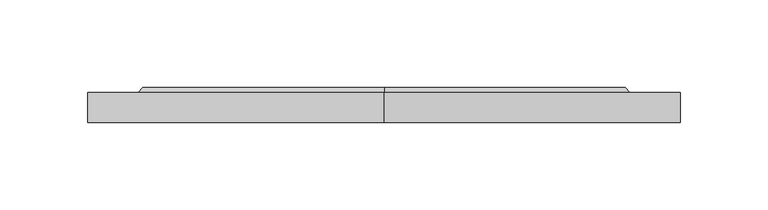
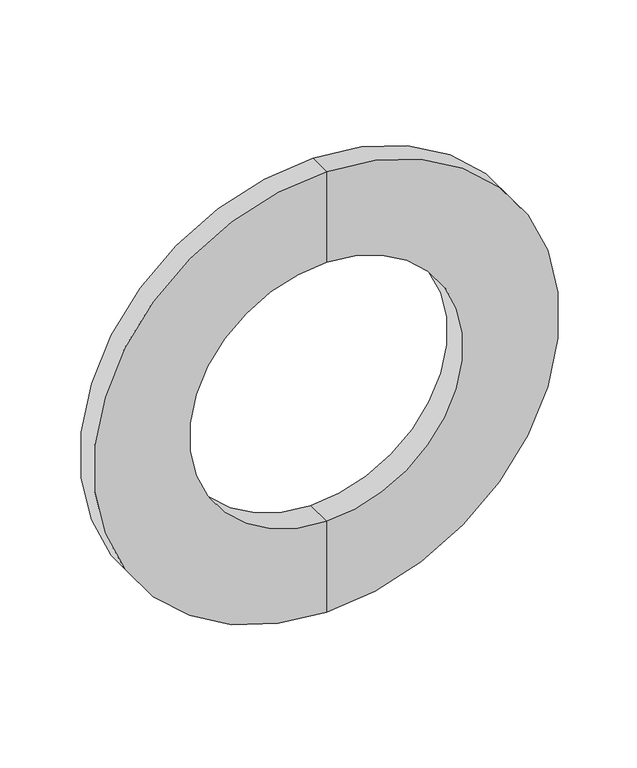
"""IFC4 building model written with IfcOpenShell, lengths in millimetres: pipe fitting geometry, Фланец : Фланец."""

import ifcopenshell
import ifcopenshell.guid

model = None  # the IFC model being written
_history = None  # IfcOwnerHistory: only IFC2X3 demands one
_inside = {}  # id of a spatial element -> (the spatial element, [elements in it])
_under = {}  # id of a project, library or spatial element -> (it, [spatial elements below it])
_declared = {}  # id of a project -> (the project, [libraries it declares])
_typed = {}  # id of a type object -> (the type object, [elements of that type])
_made_of = {}  # id of a material, layer set ... -> (it, [elements and type objects made of it])


def new_model(schema):
    """Start an empty IFC model of exactly this schema.

    Asked for "IFC4X3", IfcOpenShell would pick the latest addendum, in which some entities
    have other attributes; the version numbers below select the first issue.
    IFC2X3 requires an IfcOwnerHistory on every rooted entity: one is made here for all.
    """
    global model, _history
    if schema == "IFC4X3":
        model = ifcopenshell.file(schema_version=(4, 3, 0, 0))
    else:
        model = ifcopenshell.file(schema=schema)
    _inside.clear()
    _under.clear()
    _declared.clear()
    _typed.clear()
    _made_of.clear()
    _history = None
    if model.schema == "IFC2X3":
        org = make("IfcOrganization", Name="unknown")
        user = make(
            "IfcPersonAndOrganization",
            ThePerson=make("IfcPerson", FamilyName="unknown"),
            TheOrganization=org,
        )
        app = make(
            "IfcApplication",
            ApplicationDeveloper=org,
            Version="unknown",
            ApplicationFullName="unknown",
            ApplicationIdentifier="unknown",
        )
        _history = make(
            "IfcOwnerHistory",
            OwningUser=user,
            OwningApplication=app,
            ChangeAction="ADDED",
            CreationDate=0,
        )
    return model


def make(cls, **values):
    """One entity of the class cls with the attributes given. An attribute that is None is left unset."""
    return model.create_entity(
        cls, **{name: value for name, value in values.items() if value is not None}
    )


def rooted(cls, **values):
    """An entity with a GlobalId (a new one), such as an element, a storey or a relation."""
    return make(cls, GlobalId=ifcopenshell.guid.new(), OwnerHistory=_history, **values)


def si_unit(unit_type, name, prefix=None):
    """IfcSIUnit, for example si_unit("LENGTHUNIT", "METRE", prefix="MILLI")."""
    return make("IfcSIUnit", UnitType=unit_type, Prefix=prefix, Name=name)


def assignment(units):
    """IfcUnitAssignment: the units of a project."""
    return None if units is None else make("IfcUnitAssignment", Units=units)


def point(xyz):
    """IfcCartesianPoint."""
    return None if xyz is None else make("IfcCartesianPoint", Coordinates=xyz)


def direction(xyz):
    """IfcDirection."""
    return None if xyz is None else make("IfcDirection", DirectionRatios=xyz)


def frame(location, z_axis=None, x_axis=None):
    """IfcAxis2Placement3D, a coordinate frame: its origin and axes. An axis left out is left unset."""
    return make(
        "IfcAxis2Placement3D",
        Location=point(location),
        Axis=direction(z_axis),
        RefDirection=direction(x_axis),
    )


def origin():
    """The frame at (0, 0, 0) with its axes left unset."""
    return frame((0.0, 0.0, 0.0))


def place(relative_to, where):
    """IfcLocalPlacement: puts the frame where relative to a parent placement (None: the world)."""
    return make(
        "IfcLocalPlacement", PlacementRelTo=relative_to, RelativePlacement=where
    )


def context(
    kind, dimensions, precision=None, world=None, true_north=None, identifier=None
):
    """IfcGeometricRepresentationContext, for example the 3D "Model" context."""
    return make(
        "IfcGeometricRepresentationContext",
        ContextIdentifier=identifier,
        ContextType=kind,
        CoordinateSpaceDimension=dimensions,
        Precision=precision,
        WorldCoordinateSystem=world,
        TrueNorth=true_north,
    )


def project(units=None, contexts=None):
    """IfcProject with its units and contexts."""
    return rooted(
        "IfcProject",
        Name="project",
        RepresentationContexts=contexts,
        UnitsInContext=assignment(units),
    )


def spatial(cls, under=None, at=None, **own):
    """A site, building, storey or space (cls), placed at a placement, below another one or the project."""
    s = rooted(cls, ObjectPlacement=at, **own)
    if under is not None:
        _under.setdefault(under.id(), (under, []))[1].append(s)
    return s


def polyline(points):
    """IfcPolyline through the points."""
    return make("IfcPolyline", Points=[point(p) for p in points])


def circle_curve(where, radius):
    """IfcCircle in the frame where."""
    return make("IfcCircle", Position=where, Radius=radius)


def shape(context_of_items, identifier, shape_type, items):
    """IfcShapeRepresentation: the items that make up one representation, for example the "Body"."""
    return make(
        "IfcShapeRepresentation",
        ContextOfItems=context_of_items,
        RepresentationIdentifier=identifier,
        RepresentationType=shape_type,
        Items=items,
    )


def source(mapping_origin, context_of_items, identifier, shape_type, items):
    """IfcRepresentationMap: a shape defined once, which mapped items show again and again."""
    return make(
        "IfcRepresentationMap",
        MappingOrigin=mapping_origin,
        MappedRepresentation=shape(context_of_items, identifier, shape_type, items),
    )


def transform(
    local_origin,
    x_axis=None,
    y_axis=None,
    z_axis=None,
    scale=None,
    scale2=None,
    scale3=None,
    uniform=True,
):
    """IfcCartesianTransformationOperator3D, or its non-uniform kind. x_axis, y_axis, z_axis: its Axis1, 2, 3."""
    if uniform:
        return make(
            "IfcCartesianTransformationOperator3D",
            Axis1=direction(x_axis),
            Axis2=direction(y_axis),
            LocalOrigin=point(local_origin),
            Scale=scale,
            Axis3=direction(z_axis),
        )
    return make(
        "IfcCartesianTransformationOperator3DnonUniform",
        Axis1=direction(x_axis),
        Axis2=direction(y_axis),
        LocalOrigin=point(local_origin),
        Scale=scale,
        Axis3=direction(z_axis),
        Scale2=scale2,
        Scale3=scale3,
    )


def mapped(mapping_source, mapping_target):
    """IfcMappedItem: shows the shape of a source again, moved by a transform."""
    return make(
        "IfcMappedItem", MappingSource=mapping_source, MappingTarget=mapping_target
    )


def made_of(thing, what):
    """Note that an element or type object is made of a material, layer set ...; save() writes the relation."""
    if what is not None:
        _made_of.setdefault(what.id(), (what, []))[1].append(thing)
    return thing


def element(
    cls,
    number,
    at=None,
    inside=None,
    cuts=None,
    type_object=None,
    material=None,
    context=None,
    identifier="Body",
    shape_type=None,
    held_by="IfcProductDefinitionShape",
    body=None,
    shapes=None,
    **own,
):
    """One element of the class cls, such as IfcWall. Its Tag is "e" and its number.

    at: its placement. inside: the storey or other place that contains it. cuts: it is an
    opening in that element (IfcRelVoidsElement). A single representation is given by context,
    identifier, shape_type and body (its items); several are given by shapes. held_by: the class
    of the entity that holds the representations. save() writes the other relations.
    """
    e = rooted(cls, Tag="e%d" % number, ObjectPlacement=at, **own)
    if body is not None:
        shapes = [shape(context, identifier, shape_type, body)]
    if shapes is not None:
        e.Representation = make(held_by, Representations=shapes)
    if inside is not None:
        _inside.setdefault(inside.id(), (inside, []))[1].append(e)
    if cuts is not None:
        rooted(
            "IfcRelVoidsElement", RelatingBuildingElement=cuts, RelatedOpeningElement=e
        )
    if type_object is not None:
        _typed.setdefault(type_object.id(), (type_object, []))[1].append(e)
    return made_of(e, material)


def aggregate(whole, parts):
    """IfcRelAggregates: a whole, such as a stair, and the parts it consists of."""
    return rooted("IfcRelAggregates", RelatingObject=whole, RelatedObjects=parts)


def save(model, path):
    """Write the relations noted so far, then the file.

    IfcRelAggregates (storeys below a building ...), IfcRelContainedInSpatialStructure (elements
    in a storey), IfcRelDefinesByType, IfcRelAssociatesMaterial and IfcRelDeclares: one each for
    every whole, place, type object, material and project.
    """
    for whole, parts in _under.values():
        aggregate(whole, parts)
    for where, things in _inside.values():
        rooted(
            "IfcRelContainedInSpatialStructure",
            RelatedElements=things,
            RelatingStructure=where,
        )
    for kind, things in _typed.values():
        rooted("IfcRelDefinesByType", RelatedObjects=things, RelatingType=kind)
    for what, things in _made_of.values():
        rooted("IfcRelAssociatesMaterial", RelatedObjects=things, RelatingMaterial=what)
    for by, libraries in _declared.values():
        rooted("IfcRelDeclares", RelatingContext=by, RelatedDefinitions=libraries)
    model.write(path)


def plane_surface(at):
    """IfcPlane: the flat surface through the origin of the frame at, square to its z axis."""
    return make("IfcPlane", Position=at)


def cylinder_surface(at, radius):
    """IfcCylindricalSurface: all points at the distance radius from the z axis of the frame at."""
    return make("IfcCylindricalSurface", Position=at, Radius=radius)


def revolved_surface(curve, axis_point, axis_direction):
    """IfcSurfaceOfRevolution: the curve turned about the line through axis_point along axis_direction."""
    return make(
        "IfcSurfaceOfRevolution",
        SweptCurve=make("IfcArbitraryOpenProfileDef", ProfileType="CURVE", Curve=curve),
        AxisPosition=make("IfcAxis1Placement", Location=point(axis_point), Axis=direction(axis_direction)),
    )


def advanced_brep(points, edges, surfaces, faces):
    """IfcAdvancedBrep: a solid bounded by faces that lie on surfaces and meet in shared edges.

    An edge is (start, end): straight between two places in points (the first is 0);
    or (start, end, curve); or (start, end, curve, False) where it runs against its curve.
    A face is (place in surfaces, loops), or (place, loops, False) where it looks against
    its surface's normal. A loop lists edges by number (the first is 1), with a minus sign
    where the edge is run from its end to its start. The first loop is the outer one.
    """
    corners = [point(p) for p in points]
    vertices = [make("IfcVertexPoint", VertexGeometry=c) for c in corners]
    made = []
    for start, end, *more in edges:
        made.append(
            make(
                "IfcEdgeCurve",
                EdgeStart=vertices[start],
                EdgeEnd=vertices[end],
                EdgeGeometry=more[0] if more else make("IfcPolyline", Points=[corners[start], corners[end]]),
                SameSense=more[1] if len(more) > 1 else True,
            )
        )
    hull = []
    for where, loops, *sense in faces:
        bounds = []
        for j, loop in enumerate(loops):
            ring = [make("IfcOrientedEdge", EdgeElement=made[abs(k) - 1], Orientation=k > 0) for k in loop]
            bounds.append(
                make(
                    "IfcFaceOuterBound" if j == 0 else "IfcFaceBound",
                    Bound=make("IfcEdgeLoop", EdgeList=ring),
                    Orientation=True,
                )
            )
        hull.append(make("IfcAdvancedFace", Bounds=bounds, FaceSurface=surfaces[where], SameSense=sense[0] if sense else True))
    return make("IfcAdvancedBrep", Outer=make("IfcClosedShell", CfsFaces=hull))


def pipe_fitting_479de25e(model_context):
    return source(origin(), model_context, "Body", "AdvancedBrep", [
        advanced_brep(
        [(0.0, 0.0, -170.0), (0.0, 0.0, 170.0), (0.0, 17.0, 170.0), (0.0, 17.0, -170.0), (0.0, 0.0, -100.0), (0.0, 0.0, 100.0), (0.0, 20.0, -100.0), (0.0, 20.0, 100.0), (0.0, 20.0, -138.5), (0.0, 20.0, 138.5), (0.0, 17.0, -141.0), (0.0, 17.0, 141.0)],
        [
            (0, 1, circle_curve(frame((0.0, 0.0, 0.0), z_axis=(0.0, 1.0, 0.0), x_axis=(0.0, 0.0, 1.0)), 170.0)),
            (1, 2),
            (2, 3, circle_curve(frame((0.0, 17.0, 0.0), z_axis=(0.0, -1.0, 0.0), x_axis=(0.0, 0.0, 1.0)), 170.0)),
            (3, 0),
            (1, 0, circle_curve(frame((0.0, 0.0, 0.0), z_axis=(0.0, 1.0, 0.0), x_axis=(0.0, 0.0, 1.0)), 170.0)),
            (3, 2, circle_curve(frame((0.0, 17.0, 0.0), z_axis=(0.0, -1.0, 0.0), x_axis=(0.0, 0.0, 1.0)), 170.0)),
            (4, 5, circle_curve(frame((0.0, 0.0, 0.0), z_axis=(0.0, 1.0, 0.0), x_axis=(0.0, 0.0, 1.0)), 100.0)),
            (5, 1),
            (0, 4),
            (5, 4, circle_curve(frame((0.0, 0.0, 0.0), z_axis=(0.0, 1.0, 0.0), x_axis=(0.0, 0.0, 1.0)), 100.0)),
            (6, 7, circle_curve(frame((0.0, 20.0, 0.0), z_axis=(0.0, 1.0, 0.0), x_axis=(0.0, 0.0, 1.0)), 100.0)),
            (7, 5),
            (4, 6),
            (7, 6, circle_curve(frame((0.0, 20.0, 0.0), z_axis=(0.0, 1.0, 0.0), x_axis=(0.0, 0.0, 1.0)), 100.0)),
            (8, 9, circle_curve(frame((0.0, 20.0, 0.0), z_axis=(0.0, 1.0, 0.0), x_axis=(0.0, 0.0, 1.0)), 138.5)),
            (9, 7),
            (6, 8),
            (9, 8, circle_curve(frame((0.0, 20.0, 0.0), z_axis=(0.0, 1.0, 0.0), x_axis=(0.0, 0.0, 1.0)), 138.5)),
            (10, 11, circle_curve(frame((0.0, 17.0, 0.0), z_axis=(0.0, 1.0, 0.0), x_axis=(0.0, 0.0, 1.0)), 141.0)),
            (11, 9),
            (8, 10),
            (11, 10, circle_curve(frame((0.0, 17.0, 0.0), z_axis=(0.0, 1.0, 0.0), x_axis=(0.0, 0.0, 1.0)), 141.0)),
            (2, 11),
            (10, 3),
        ],
        [
            cylinder_surface(frame((0.0, -60.0, 0.0), z_axis=(0.0, -1.0, 0.0), x_axis=(0.0, 0.0, 1.0)), 170.0),
            plane_surface(frame((0.0, 0.0, 0.0), z_axis=(0.0, -1.0, 0.0), x_axis=(0.0, 0.0, 1.0))),
            revolved_surface(polyline([(0.0, 0.0, 100.0), (0.0, 20.0, 100.0)]), (0.0, -60.0, 0.0), (0.0, -1.0, 0.0)),
            plane_surface(frame((0.0, 20.0, 0.0), z_axis=(0.0, 1.0, 0.0), x_axis=(0.0, 0.0, 1.0))),
            revolved_surface(polyline([(0.0, 20.0, 138.5), (0.0, 17.0, 141.0)]), (0.0, -60.0, 0.0), (0.0, -1.0, 0.0)),
            plane_surface(frame((0.0, 17.0, 0.0), z_axis=(0.0, 1.0, 0.0), x_axis=(0.0, 0.0, 1.0))),
        ],
        [
            (0, [[1, 2, 3, 4]]),
            (0, [[5, -4, 6, -2]]),
            (1, [[7, 8, -1, 9]]),
            (1, [[10, -9, -5, -8]]),
            (2, [[11, 12, -7, 13]]),
            (2, [[14, -13, -10, -12]]),
            (3, [[15, 16, -11, 17]]),
            (3, [[18, -17, -14, -16]]),
            (4, [[19, 20, -15, 21]]),
            (4, [[22, -21, -18, -20]]),
            (5, [[-3, 23, -19, 24]]),
            (5, [[-6, -24, -22, -23]]),
        ],
    ),
    ])


if __name__ == "__main__":
    model = new_model("IFC4")
    model_context = context("Model", 3, world=origin())
    ifc_project = project(units=[si_unit("LENGTHUNIT", "METRE", prefix="MILLI")], contexts=[model_context])
    site = spatial("IfcSite", under=ifc_project)
    building = spatial("IfcBuilding", under=site)
    placement = place(None, origin())
    pipe_fitting_shape = pipe_fitting_479de25e(model_context)
    element("IfcPipeFitting", 1, ObjectType="Фланец : Фланец", at=placement, inside=building, context=model_context, shape_type="MappedRepresentation", body=[
        mapped(pipe_fitting_shape, transform((0.0, 0.0, 0.0), x_axis=(1.0, 0.0, 0.0), y_axis=(0.0, 1.0, 0.0), z_axis=(0.0, 0.0, 1.0))),
    ])
    save(model, "model.ifc")
